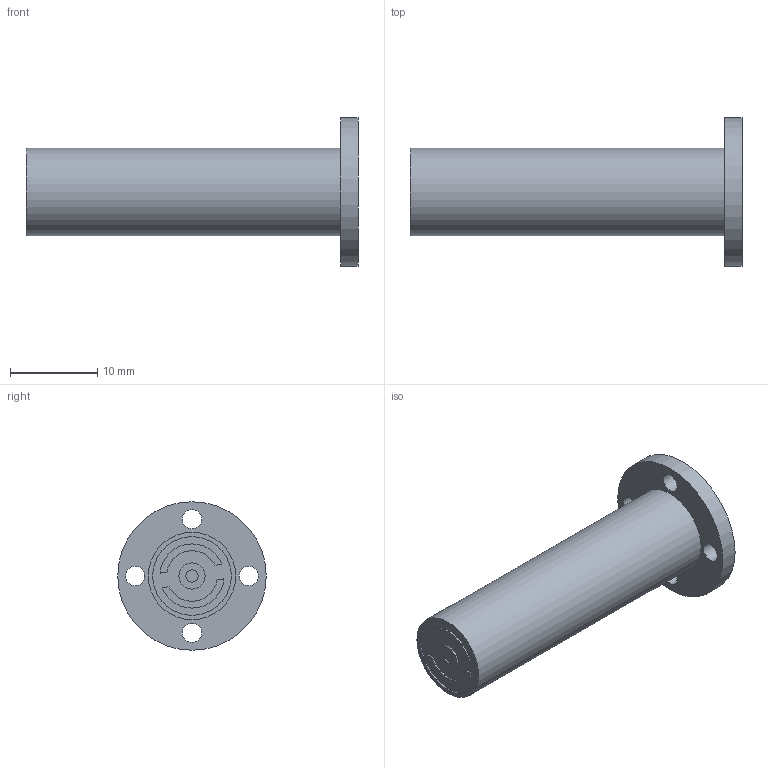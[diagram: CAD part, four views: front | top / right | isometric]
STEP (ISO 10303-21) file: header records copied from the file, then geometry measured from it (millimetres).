
FILE_DESCRIPTION(/* description */ (''),/* implementation_level */ '2;1');
FILE_NAME(/* name */ 'F:\daten\PRODUKTE\TELEMETR\SV\Mechanik\CAD\2c\D10xL38\kunde\SV_2c_Kunde.stp',/* time_stamp */ '2019-09-03T08:46:28+02:00',/* author */ ('dschaefer'),/* organization */ (''),/* preprocessor_version */ 'ST-DEVELOPER v16.5',/* originating_system */ 'Autodesk Inventor 2017',/* authorisation */ '');
FILE_SCHEMA (('AUTOMOTIVE_DESIGN { 1 0 10303 214 3 1 1 }'));
Length unit declared in the file: millimetre
Products named in the file (1): SV_2c_Kunde
Bounding box: 38 x 17 x 17 mm (x, y, z)
Volume: 3242 mm3; surface area: 1732.6 mm2
Topology: 1 solids, 1 shells, 25 faces, 56 edges, 39 vertices
Faces by surface type: cylinder 13, plane 12
Full cylindrical faces by diameter (mm): 1.4 x1, 2.2 x4, 3 x1, 9 x1, 10 x1, 17 x1
Entity records: 697 total; most frequent: DIRECTION 120, CARTESIAN_POINT 102, ORIENTED_EDGE 84, AXIS2_PLACEMENT_3D 52, EDGE_LOOP 48, EDGE_CURVE 42, VERTEX_POINT 34, CIRCLE 26
